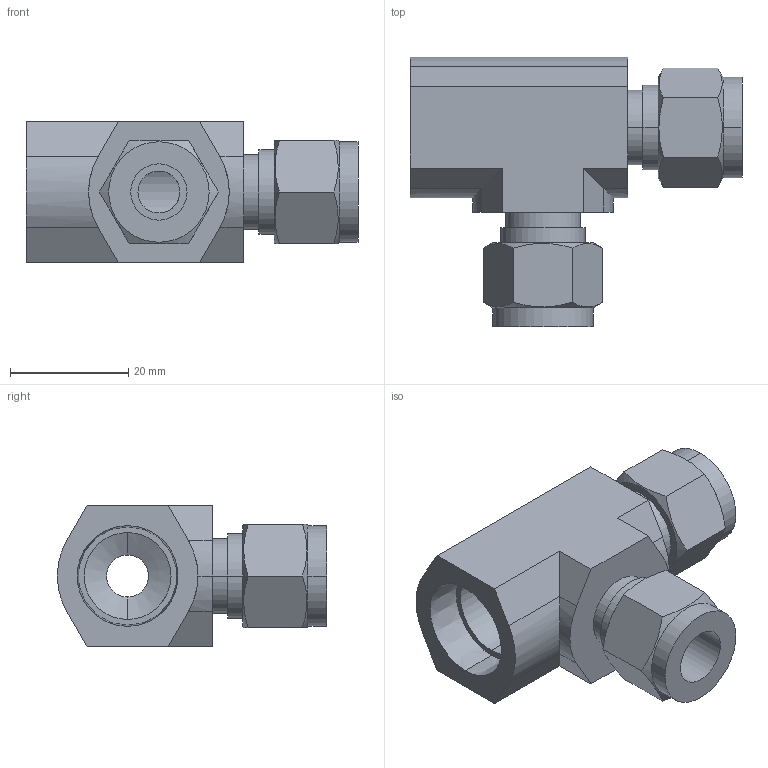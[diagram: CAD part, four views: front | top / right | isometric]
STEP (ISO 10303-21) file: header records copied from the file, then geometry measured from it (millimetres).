
FILE_DESCRIPTION (( 'STEP AP203' ), '1' );
FILE_NAME ('DTF 06-06 SS.STEP', '2009-09-08T09:44:41', ( ' ' ), ( '' ), 'SwSTEP 2.0', 'SolidWorks 2008', '' );
FILE_SCHEMA (( 'CONFIG_CONTROL_DESIGN' ));
Length unit declared in the file: millimetre
Products named in the file (1): DTF 06-06 SS
Bounding box: 56.2 x 45.6 x 23.8 mm (x, y, z)
Volume: 19718.9 mm3; surface area: 9504.9 mm2
Topology: 1 solids, 1 shells, 76 faces, 185 edges, 120 vertices
Faces by surface type: plane 36, cylinder 28, cone 12
Entity records: 2583 total; most frequent: CARTESIAN_POINT 729, ORIENTED_EDGE 370, DIRECTION 361, EDGE_CURVE 185, AXIS2_PLACEMENT_3D 136, VERTEX_POINT 120, EDGE_LOOP 89, VECTOR 89
